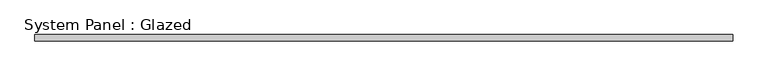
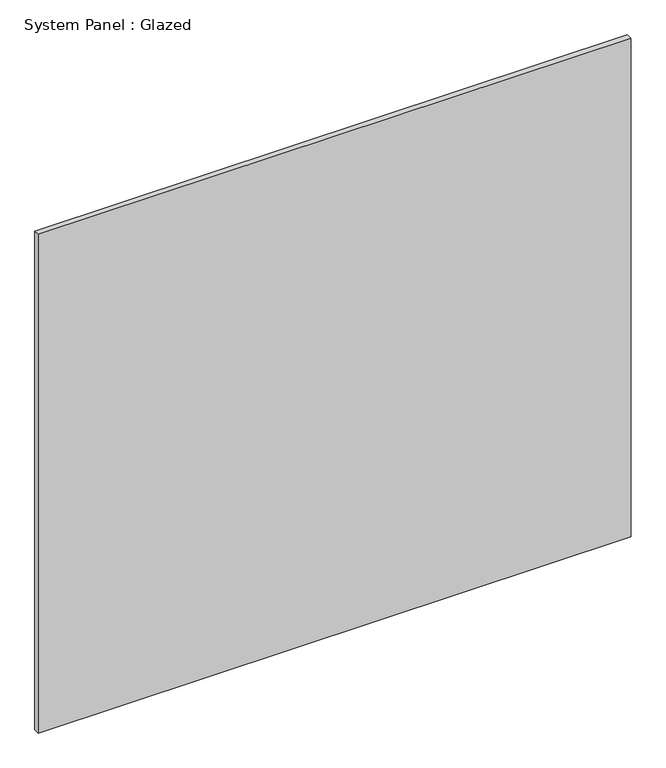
"""IFC4 building model written with IfcOpenShell, lengths in millimetres: plate geometry, System Panel : Glazed."""

from ifc_helpers import new_model, si_unit, origin, origin_with_axes, place, context, project, spatial, polyline, outline, extrude, source, transform, mapped, element, save


def system_panel_glazed_8633cea9(model_context):
    return source(origin(), model_context, "Body", "SweptSolid", [
        extrude(outline(polyline([(1371.6, -44.45), (-1371.6, -44.45), (-1371.6, -19.05), (1371.6, -19.05), (1371.6, -44.45)])), origin_with_axes(), (0.0, 0.0, 1.0), 2438.4),
    ])


if __name__ == "__main__":
    model = new_model("IFC4")
    model_context = context("Model", 3, world=origin())
    ifc_project = project(units=[si_unit("LENGTHUNIT", "METRE", prefix="MILLI")], contexts=[model_context])
    site = spatial("IfcSite", under=ifc_project)
    building = spatial("IfcBuilding", under=site)
    placement = place(None, origin())
    system_panel_glazed_shape = system_panel_glazed_8633cea9(model_context)
    element("IfcPlate", 1, ObjectType="System Panel : Glazed", at=placement, inside=building, context=model_context, shape_type="MappedRepresentation", body=[
        mapped(system_panel_glazed_shape, transform((0.0, 0.0, 0.0), x_axis=(1.0, 0.0, 0.0), y_axis=(0.0, 1.0, 0.0), z_axis=(0.0, 0.0, 1.0))),
    ])
    save(model, "model.ifc")
